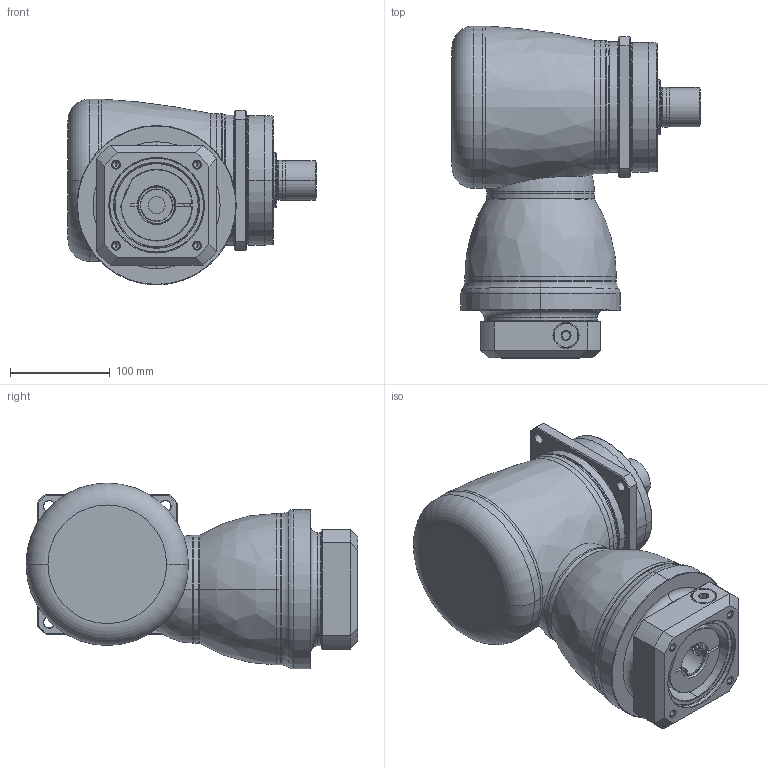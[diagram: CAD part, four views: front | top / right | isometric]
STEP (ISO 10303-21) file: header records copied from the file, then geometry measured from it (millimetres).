
FILE_DESCRIPTION((''),'2;1');
FILE_NAME('KF140_S3_1ST_32-P0409700101_ASM','2016-07-05T',('d01943'),(''),'PRO/ENGINEER BY PARAMETRIC TECHNOLOGY CORPORATION, 2008410','PRO/ENGINEER BY PARAMETRIC TECHNOLOGY CORPORATION, 2008410','');
FILE_SCHEMA(('CONFIG_CONTROL_DESIGN'));
Length unit declared in the file: millimetre
Products named in the file (11): P1008500002; P1804500001; P0915502001; P1315500001; P1007500001; P1318500201; P0409700101; P0503700010; P0912502201; 21711418017; KF140_S3_1ST_32-P0409700101_ASM
Assembly tree (10 placements, depth 2):
  KF140_S3_1ST_32-P0409700101_ASM
    P1008500002
    P1804500001
    P0915502001
    P1315500001
    P1007500001
    P1318500201
    P0409700101
    P0503700010
    P0912502201
    21711418017
Bounding box: 249 x 333 x 186.5 mm (x, y, z)
Volume: 5888355.5 mm3; surface area: 485385.8 mm2
Topology: 11 solids, 11 shells, 443 faces, 984 edges, 577 vertices
Faces by surface type: cylinder 142, cone 122, plane 92, torus 66, bspline 19, sphere 2
Entity records: 17093 total; most frequent: CARTESIAN_POINT 7058, DIRECTION 2225, ORIENTED_EDGE 1928, EDGE_CURVE 964, AXIS2_PLACEMENT_3D 943, VERTEX_POINT 577, EDGE_LOOP 501, CIRCLE 498
